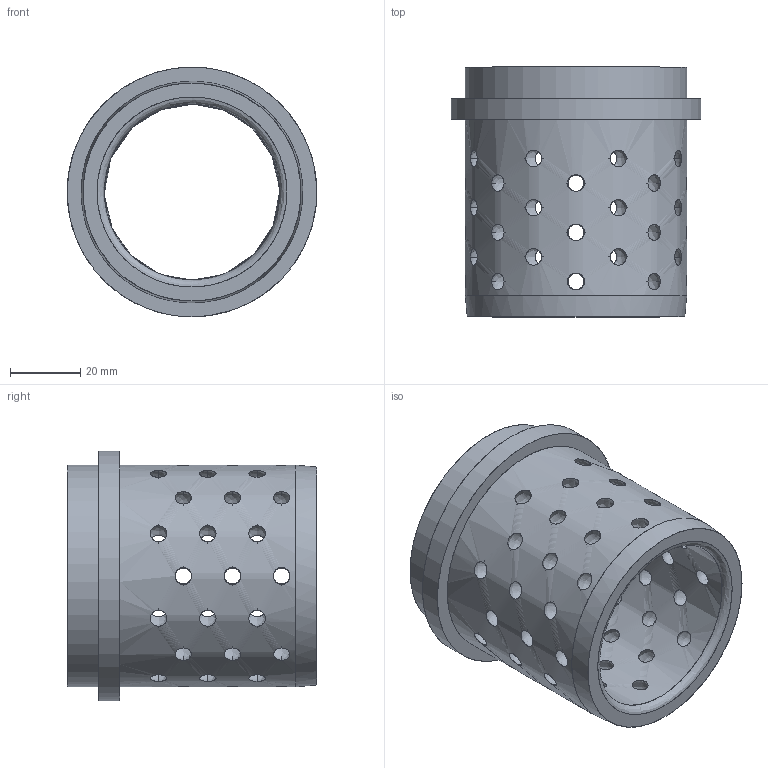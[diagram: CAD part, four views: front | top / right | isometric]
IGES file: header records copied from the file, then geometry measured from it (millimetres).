
Start section: Missler Software BP 521, 31674 Labege Cedex, France Tel   : +33 (0)5 61 00 03 00 Fax   : +33 (0)5 61 00 03 03 Email : sup.topsolid@topsolid.com
Global section: file name: C:\Documents and Settings\EXPER\Desktop\Cuma\D30 Serisi\D30_5071.igs; native system: TopSolid v605250 Missler Software; preprocessor: IGES preprocessor v100000; date: 030101.005200; units: millimetre
Bounding box: 71 x 71 x 71 mm (x, y, z)
Surface area: 35037.9 mm2 (no closed solid volume)
Topology: 0 solids, 0 shells, 59 faces, 3270 edges, 3166 vertices
Faces by surface type: bspline 59
